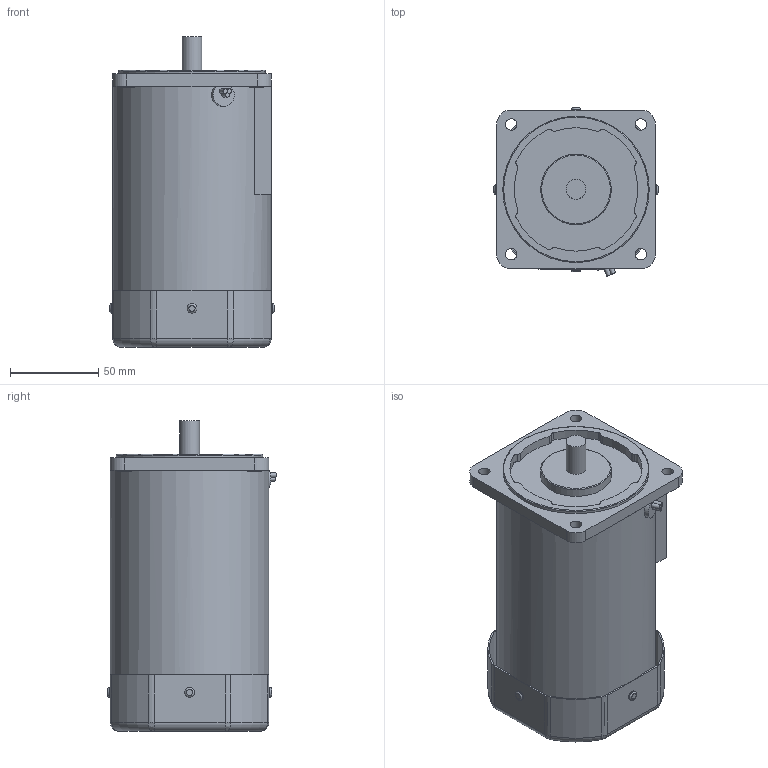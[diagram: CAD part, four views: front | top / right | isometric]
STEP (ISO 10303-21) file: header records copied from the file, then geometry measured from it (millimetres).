
FILE_DESCRIPTION((''),'2;1');
FILE_NAME('E:\2공장-도면\3D\표준형 3D(민규)\step file\K9IP200Fㅁ.stp','2014-11-12T09:14:47',('AHN'),(''),'Autodesk Inventor 2012','Autodesk Inventor 2012','');
FILE_SCHEMA(('CONFIG_CONTROL_DESIGN'));
Length unit declared in the file: millimetre
Products named in the file (1): K9IP180Fㅁ
Bounding box: 93 x 95.71 x 176 mm (x, y, z)
Volume: 916447.8 mm3; surface area: 88602.1 mm2
Topology: 1 solids, 7 shells, 264 faces, 621 edges, 371 vertices
Faces by surface type: cylinder 131, plane 79, torus 46, bspline 8
Full cylindrical faces by diameter (mm): 5.5 x4, 6.5 x4, 8 x4, 11.3 x1, 40 x1, 83 x1, 90 x1
Entity records: 8340 total; most frequent: CARTESIAN_POINT 2267, DIRECTION 1313, ORIENTED_EDGE 1192, EDGE_CURVE 596, AXIS2_PLACEMENT_3D 525, VERTEX_POINT 368, EDGE_LOOP 331, CIRCLE 268
